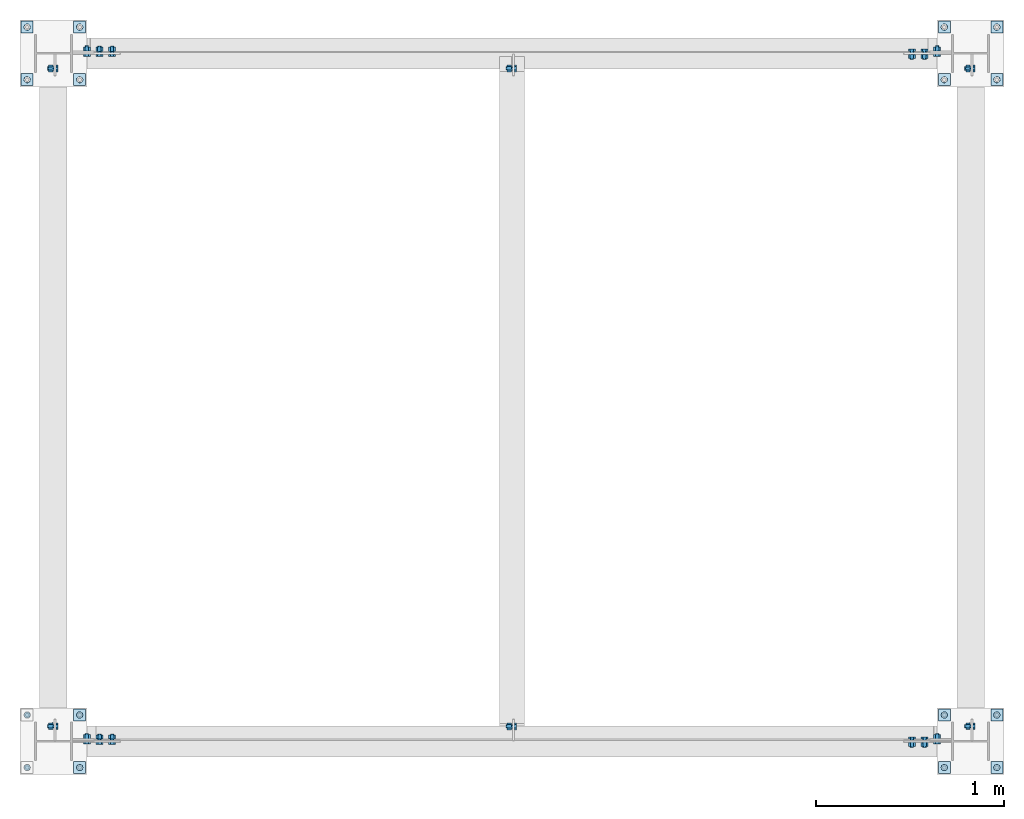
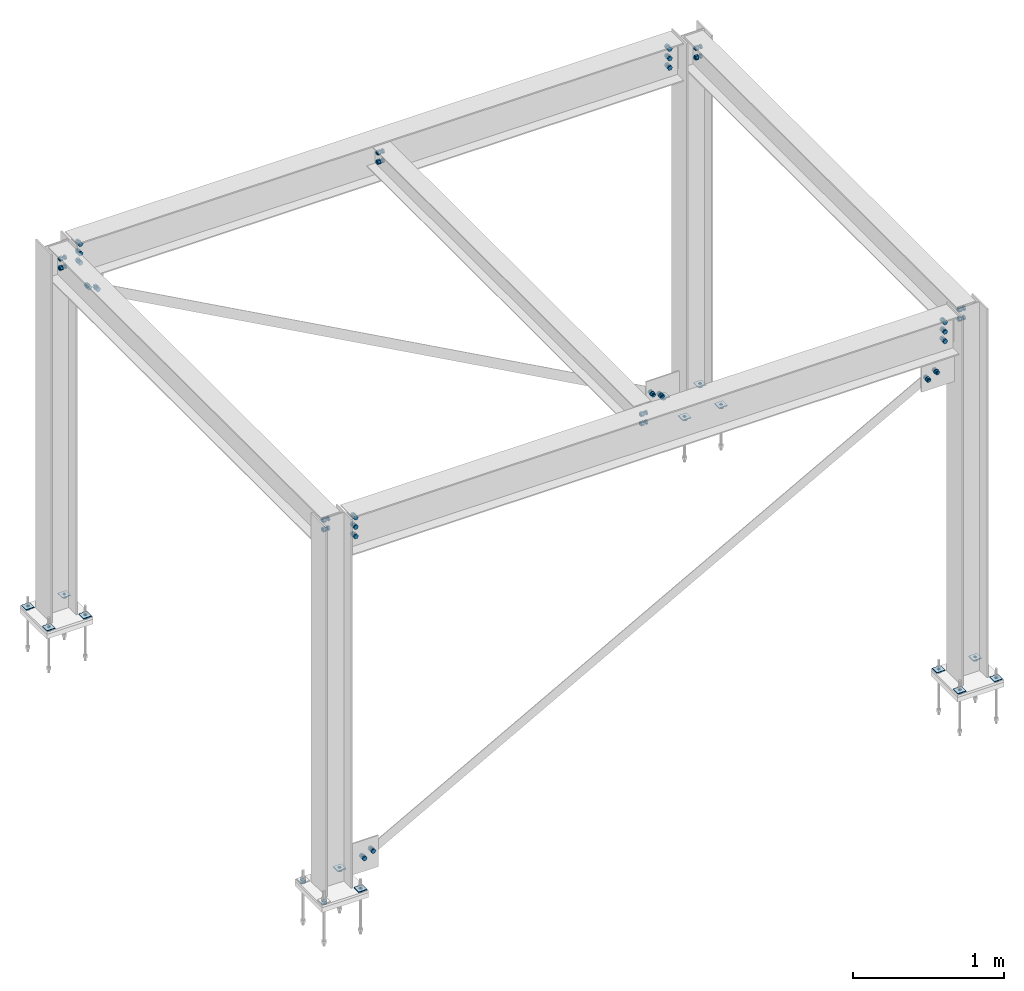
# One storey, part 5 of 5: 18 mechanical fasteners, 14 plates, 14 openings.
"""IFC4 building model written with IfcOpenShell, lengths in millimetres."""

from ifc_helpers import new_model, si_unit, direction, frame, origin_with_axes, place, context, subcontext, project, spatial, line, arc, indexed_curve, outline, extrude, source, transform, mapped, material, element, save


model = new_model("IFC4")

# Units and contexts
model_context = context("Model", 3, precision=0.2, world=origin_with_axes(), true_north=direction((0.0, 1.0)))
body_context = subcontext(model_context, "Body", "Model", "MODEL_VIEW")
ifc_project = project(units=[si_unit("LENGTHUNIT", "METRE", prefix="MILLI"), si_unit("AREAUNIT", "SQUARE_METRE"), si_unit("VOLUMEUNIT", "CUBIC_METRE"), si_unit("MASSUNIT", "GRAM", prefix="KILO"), si_unit("TIMEUNIT", "SECOND"), si_unit("PLANEANGLEUNIT", "RADIAN"), si_unit("SOLIDANGLEUNIT", "STERADIAN"), si_unit("THERMODYNAMICTEMPERATUREUNIT", "DEGREE_CELSIUS"), si_unit("LUMINOUSINTENSITYUNIT", "LUMEN")], contexts=[model_context])

# Site, building, storey
site_placement = place(None, origin_with_axes())
site = spatial("IfcSite", under=ifc_project, at=site_placement, Name="Unknown", CompositionType="ELEMENT")
building_placement = place(site_placement, origin_with_axes())
building = spatial("IfcBuilding", under=site, at=building_placement, Name="Unknown", CompositionType="ELEMENT")
storey_placement = place(building_placement, origin_with_axes())
storey = spatial("IfcBuildingStorey", under=building, at=storey_placement, Name="Unknown", CompositionType="ELEMENT", Elevation=0.0)

# Plate, voiding feature
ifc_material_1 = material(Name="A36", Category="STEEL")
plate_1_placement = place(storey_placement, frame((107.95, -171.45, 60.325), z_axis=(0.0, 0.0, 1.0), x_axis=(1.0, 0.0, 0.0)))
plate_1 = element("IfcPlate", 1, at=plate_1_placement, inside=storey, material=ifc_material_1, Name="PLATE WASHER", PredefinedType="NOTDEFINED", context=body_context, shape_type="SolidModel", body=[
    extrude(outline(indexed_curve([(0.0, 0.0), (63.5, 0.0), (63.5, 63.5), (0.0, 63.5)], segments=[line(1, 2, 3, 4, 1)])), frame((0.0, 0.0, 3.175), z_axis=(0.0, 0.0, 1.0), x_axis=(1.0, 0.0, 0.0)), (0.0, 0.0, -1.0), 6.35),
])
voiding_feature_1_placement = place(plate_1_placement, frame((31.75, 31.75, 23.175), z_axis=(1.0, 0.0, 0.0), x_axis=(0.0, 0.0, -1.0)))
element("IfcVoidingFeature", 2, at=voiding_feature_1_placement, cuts=plate_1, Name="BEAM", PredefinedType="HOLE", context=body_context, shape_type="SolidModel", body=[
    extrude(outline(indexed_curve([(10.3185, 0.0), (8.93608, 5.15925), (5.15925, 8.93608), (0.0, 10.3185), (-5.15925, 8.93608), (-8.93608, 5.15925), (-10.3185, 0.0), (-8.93608, -5.15925), (-5.15925, -8.93608), (0.0, -10.3185), (5.15925, -8.93608), (8.93608, -5.15925)], segments=[line(1, 2, 3, 4, 5, 6, 7, 8, 9, 10, 11, 12, 1)])), frame((0.0, 0.0, 0.0), z_axis=(-1.0, 0.0, 0.0), x_axis=(0.0, 0.0, 1.0)), (0.0, 0.0, -1.0), 46.35),
])

plate_2_placement = place(storey_placement, frame((107.95, 107.95, 60.325), z_axis=(0.0, 0.0, 1.0), x_axis=(1.0, 0.0, 0.0)))
plate_2 = element("IfcPlate", 3, at=plate_2_placement, inside=storey, material=ifc_material_1, Name="PLATE WASHER", PredefinedType="NOTDEFINED", context=body_context, shape_type="SolidModel", body=[
    extrude(outline(indexed_curve([(0.0, 0.0), (63.5, 0.0), (63.5, 63.5), (0.0, 63.5)], segments=[line(1, 2, 3, 4, 1)])), frame((0.0, 0.0, 3.175), z_axis=(0.0, 0.0, 1.0), x_axis=(1.0, 0.0, 0.0)), (0.0, 0.0, -1.0), 6.35),
])
voiding_feature_2_placement = place(plate_2_placement, frame((31.75, 31.75, 23.175), z_axis=(1.0, 0.0, 0.0), x_axis=(0.0, 0.0, -1.0)))
element("IfcVoidingFeature", 4, at=voiding_feature_2_placement, cuts=plate_2, Name="BEAM", PredefinedType="HOLE", context=body_context, shape_type="SolidModel", body=[
    extrude(outline(indexed_curve([(10.3185, 0.0), (8.93608, 5.15925), (5.15925, 8.93608), (0.0, 10.3185), (-5.15925, 8.93608), (-8.93608, 5.15925), (-10.3185, 0.0), (-8.93608, -5.15925), (-5.15925, -8.93608), (0.0, -10.3185), (5.15925, -8.93608), (8.93608, -5.15925)], segments=[line(1, 2, 3, 4, 5, 6, 7, 8, 9, 10, 11, 12, 1)])), frame((0.0, 0.0, 0.0), z_axis=(-1.0, 0.0, 0.0), x_axis=(0.0, 0.0, 1.0)), (0.0, 0.0, -1.0), 46.35),
])

plate_3_placement = place(storey_placement, frame((4705.35, -171.45, 60.325), z_axis=(0.0, 0.0, 1.0), x_axis=(1.0, 0.0, 0.0)))
plate_3 = element("IfcPlate", 5, at=plate_3_placement, inside=storey, material=ifc_material_1, Name="PLATE WASHER", PredefinedType="NOTDEFINED", context=body_context, shape_type="SolidModel", body=[
    extrude(outline(indexed_curve([(0.0, 0.0), (63.5, 0.0), (63.5, 63.5), (0.0, 63.5)], segments=[line(1, 2, 3, 4, 1)])), frame((0.0, 0.0, 3.175), z_axis=(0.0, 0.0, 1.0), x_axis=(1.0, 0.0, 0.0)), (0.0, 0.0, -1.0), 6.35),
])
voiding_feature_3_placement = place(plate_3_placement, frame((31.75, 31.75, 23.175), z_axis=(1.0, 0.0, 0.0), x_axis=(0.0, 0.0, -1.0)))
element("IfcVoidingFeature", 6, at=voiding_feature_3_placement, cuts=plate_3, Name="BEAM", PredefinedType="HOLE", context=body_context, shape_type="SolidModel", body=[
    extrude(outline(indexed_curve([(10.3185, 0.0), (8.93608, 5.15925), (5.15925, 8.93608), (0.0, 10.3185), (-5.15925, 8.93608), (-8.93608, 5.15925), (-10.3185, 0.0), (-8.93608, -5.15925), (-5.15925, -8.93608), (0.0, -10.3185), (5.15925, -8.93608), (8.93608, -5.15925)], segments=[line(1, 2, 3, 4, 5, 6, 7, 8, 9, 10, 11, 12, 1)])), frame((0.0, 0.0, 0.0), z_axis=(-1.0, 0.0, 0.0), x_axis=(0.0, 0.0, 1.0)), (0.0, 0.0, -1.0), 46.35),
])

plate_4_placement = place(storey_placement, frame((4705.35, 107.95, 60.325), z_axis=(0.0, 0.0, 1.0), x_axis=(1.0, 0.0, 0.0)))
plate_4 = element("IfcPlate", 7, at=plate_4_placement, inside=storey, material=ifc_material_1, Name="PLATE WASHER", PredefinedType="NOTDEFINED", context=body_context, shape_type="SolidModel", body=[
    extrude(outline(indexed_curve([(0.0, 0.0), (63.5, 0.0), (63.5, 63.5), (0.0, 63.5)], segments=[line(1, 2, 3, 4, 1)])), frame((0.0, 0.0, 3.175), z_axis=(0.0, 0.0, 1.0), x_axis=(1.0, 0.0, 0.0)), (0.0, 0.0, -1.0), 6.35),
])
voiding_feature_4_placement = place(plate_4_placement, frame((31.75, 31.75, 23.175), z_axis=(1.0, 0.0, 0.0), x_axis=(0.0, 0.0, -1.0)))
element("IfcVoidingFeature", 8, at=voiding_feature_4_placement, cuts=plate_4, Name="BEAM", PredefinedType="HOLE", context=body_context, shape_type="SolidModel", body=[
    extrude(outline(indexed_curve([(10.3185, 0.0), (8.93608, 5.15925), (5.15925, 8.93608), (0.0, 10.3185), (-5.15925, 8.93608), (-8.93608, 5.15925), (-10.3185, 0.0), (-8.93608, -5.15925), (-5.15925, -8.93608), (0.0, -10.3185), (5.15925, -8.93608), (8.93608, -5.15925)], segments=[line(1, 2, 3, 4, 5, 6, 7, 8, 9, 10, 11, 12, 1)])), frame((0.0, 0.0, 0.0), z_axis=(-1.0, 0.0, 0.0), x_axis=(0.0, 0.0, 1.0)), (0.0, 0.0, -1.0), 46.35),
])

plate_5_placement = place(storey_placement, frame((4984.75, -171.45, 60.325), z_axis=(0.0, 0.0, 1.0), x_axis=(1.0, 0.0, 0.0)))
plate_5 = element("IfcPlate", 9, at=plate_5_placement, inside=storey, material=ifc_material_1, Name="PLATE WASHER", PredefinedType="NOTDEFINED", context=body_context, shape_type="SolidModel", body=[
    extrude(outline(indexed_curve([(0.0, 0.0), (63.5, 0.0), (63.5, 63.5), (0.0, 63.5)], segments=[line(1, 2, 3, 4, 1)])), frame((0.0, 0.0, 3.175), z_axis=(0.0, 0.0, 1.0), x_axis=(1.0, 0.0, 0.0)), (0.0, 0.0, -1.0), 6.35),
])
voiding_feature_5_placement = place(plate_5_placement, frame((31.75, 31.75, 23.175), z_axis=(1.0, 0.0, 0.0), x_axis=(0.0, 0.0, -1.0)))
element("IfcVoidingFeature", 10, at=voiding_feature_5_placement, cuts=plate_5, Name="BEAM", PredefinedType="HOLE", context=body_context, shape_type="SolidModel", body=[
    extrude(outline(indexed_curve([(10.3185, 0.0), (8.93608, 5.15925), (5.15925, 8.93608), (0.0, 10.3185), (-5.15925, 8.93608), (-8.93608, 5.15925), (-10.3185, 0.0), (-8.93608, -5.15925), (-5.15925, -8.93608), (0.0, -10.3185), (5.15925, -8.93608), (8.93608, -5.15925)], segments=[line(1, 2, 3, 4, 5, 6, 7, 8, 9, 10, 11, 12, 1)])), frame((0.0, 0.0, 0.0), z_axis=(-1.0, 0.0, 0.0), x_axis=(0.0, 0.0, 1.0)), (0.0, 0.0, -1.0), 46.35),
])

plate_6_placement = place(storey_placement, frame((4984.75, 107.95, 60.325), z_axis=(0.0, 0.0, 1.0), x_axis=(1.0, 0.0, 0.0)))
plate_6 = element("IfcPlate", 11, at=plate_6_placement, inside=storey, material=ifc_material_1, Name="PLATE WASHER", PredefinedType="NOTDEFINED", context=body_context, shape_type="SolidModel", body=[
    extrude(outline(indexed_curve([(0.0, 0.0), (63.5, 0.0), (63.5, 63.5), (0.0, 63.5)], segments=[line(1, 2, 3, 4, 1)])), frame((0.0, 0.0, 3.175), z_axis=(0.0, 0.0, 1.0), x_axis=(1.0, 0.0, 0.0)), (0.0, 0.0, -1.0), 6.35),
])
voiding_feature_6_placement = place(plate_6_placement, frame((31.75, 31.75, 23.175), z_axis=(1.0, 0.0, 0.0), x_axis=(0.0, 0.0, -1.0)))
element("IfcVoidingFeature", 12, at=voiding_feature_6_placement, cuts=plate_6, Name="BEAM", PredefinedType="HOLE", context=body_context, shape_type="SolidModel", body=[
    extrude(outline(indexed_curve([(10.3185, 0.0), (8.93608, 5.15925), (5.15925, 8.93608), (0.0, 10.3185), (-5.15925, 8.93608), (-8.93608, 5.15925), (-10.3185, 0.0), (-8.93608, -5.15925), (-5.15925, -8.93608), (0.0, -10.3185), (5.15925, -8.93608), (8.93608, -5.15925)], segments=[line(1, 2, 3, 4, 5, 6, 7, 8, 9, 10, 11, 12, 1)])), frame((0.0, 0.0, 0.0), z_axis=(-1.0, 0.0, 0.0), x_axis=(0.0, 0.0, 1.0)), (0.0, 0.0, -1.0), 46.35),
])

plate_7_placement = place(storey_placement, frame((-171.45, 3486.15, 60.325), z_axis=(0.0, 0.0, 1.0), x_axis=(1.0, 0.0, 0.0)))
plate_7 = element("IfcPlate", 13, at=plate_7_placement, inside=storey, material=ifc_material_1, Name="PLATE WASHER", PredefinedType="NOTDEFINED", context=body_context, shape_type="SolidModel", body=[
    extrude(outline(indexed_curve([(0.0, 0.0), (63.5, 0.0), (63.5, 63.5), (0.0, 63.5)], segments=[line(1, 2, 3, 4, 1)])), frame((0.0, 0.0, 3.175), z_axis=(0.0, 0.0, 1.0), x_axis=(1.0, 0.0, 0.0)), (0.0, 0.0, -1.0), 6.35),
])
voiding_feature_7_placement = place(plate_7_placement, frame((31.75, 31.75, 23.175), z_axis=(1.0, 0.0, 0.0), x_axis=(0.0, 0.0, -1.0)))
element("IfcVoidingFeature", 14, at=voiding_feature_7_placement, cuts=plate_7, Name="BEAM", PredefinedType="HOLE", context=body_context, shape_type="SolidModel", body=[
    extrude(outline(indexed_curve([(10.3185, 0.0), (8.93608, 5.15925), (5.15925, 8.93608), (0.0, 10.3185), (-5.15925, 8.93608), (-8.93608, 5.15925), (-10.3185, 0.0), (-8.93608, -5.15925), (-5.15925, -8.93608), (0.0, -10.3185), (5.15925, -8.93608), (8.93608, -5.15925)], segments=[line(1, 2, 3, 4, 5, 6, 7, 8, 9, 10, 11, 12, 1)])), frame((0.0, 0.0, 0.0), z_axis=(-1.0, 0.0, 0.0), x_axis=(0.0, 0.0, 1.0)), (0.0, 0.0, -1.0), 46.35),
])

plate_8_placement = place(storey_placement, frame((-171.45, 3765.55, 60.325), z_axis=(0.0, 0.0, 1.0), x_axis=(1.0, 0.0, 0.0)))
plate_8 = element("IfcPlate", 15, at=plate_8_placement, inside=storey, material=ifc_material_1, Name="PLATE WASHER", PredefinedType="NOTDEFINED", context=body_context, shape_type="SolidModel", body=[
    extrude(outline(indexed_curve([(0.0, 0.0), (63.5, 0.0), (63.5, 63.5), (0.0, 63.5)], segments=[line(1, 2, 3, 4, 1)])), frame((0.0, 0.0, 3.175), z_axis=(0.0, 0.0, 1.0), x_axis=(1.0, 0.0, 0.0)), (0.0, 0.0, -1.0), 6.35),
])
voiding_feature_8_placement = place(plate_8_placement, frame((31.75, 31.75, 23.175), z_axis=(1.0, 0.0, 0.0), x_axis=(0.0, 0.0, -1.0)))
element("IfcVoidingFeature", 16, at=voiding_feature_8_placement, cuts=plate_8, Name="BEAM", PredefinedType="HOLE", context=body_context, shape_type="SolidModel", body=[
    extrude(outline(indexed_curve([(10.3185, 0.0), (8.93608, 5.15925), (5.15925, 8.93608), (0.0, 10.3185), (-5.15925, 8.93608), (-8.93608, 5.15925), (-10.3185, 0.0), (-8.93608, -5.15925), (-5.15925, -8.93608), (0.0, -10.3185), (5.15925, -8.93608), (8.93608, -5.15925)], segments=[line(1, 2, 3, 4, 5, 6, 7, 8, 9, 10, 11, 12, 1)])), frame((0.0, 0.0, 0.0), z_axis=(-1.0, 0.0, 0.0), x_axis=(0.0, 0.0, 1.0)), (0.0, 0.0, -1.0), 46.35),
])

plate_9_placement = place(storey_placement, frame((107.95, 3486.15, 60.325), z_axis=(0.0, 0.0, 1.0), x_axis=(1.0, 0.0, 0.0)))
plate_9 = element("IfcPlate", 17, at=plate_9_placement, inside=storey, material=ifc_material_1, Name="PLATE WASHER", PredefinedType="NOTDEFINED", context=body_context, shape_type="SolidModel", body=[
    extrude(outline(indexed_curve([(0.0, 0.0), (63.5, 0.0), (63.5, 63.5), (0.0, 63.5)], segments=[line(1, 2, 3, 4, 1)])), frame((0.0, 0.0, 3.175), z_axis=(0.0, 0.0, 1.0), x_axis=(1.0, 0.0, 0.0)), (0.0, 0.0, -1.0), 6.35),
])
voiding_feature_9_placement = place(plate_9_placement, frame((31.75, 31.75, 23.175), z_axis=(1.0, 0.0, 0.0), x_axis=(0.0, 0.0, -1.0)))
element("IfcVoidingFeature", 18, at=voiding_feature_9_placement, cuts=plate_9, Name="BEAM", PredefinedType="HOLE", context=body_context, shape_type="SolidModel", body=[
    extrude(outline(indexed_curve([(10.3185, 0.0), (8.93608, 5.15925), (5.15925, 8.93608), (0.0, 10.3185), (-5.15925, 8.93608), (-8.93608, 5.15925), (-10.3185, 0.0), (-8.93608, -5.15925), (-5.15925, -8.93608), (0.0, -10.3185), (5.15925, -8.93608), (8.93608, -5.15925)], segments=[line(1, 2, 3, 4, 5, 6, 7, 8, 9, 10, 11, 12, 1)])), frame((0.0, 0.0, 0.0), z_axis=(-1.0, 0.0, 0.0), x_axis=(0.0, 0.0, 1.0)), (0.0, 0.0, -1.0), 46.35),
])

plate_10_placement = place(storey_placement, frame((107.95, 3765.55, 60.325), z_axis=(0.0, 0.0, 1.0), x_axis=(1.0, 0.0, 0.0)))
plate_10 = element("IfcPlate", 19, at=plate_10_placement, inside=storey, material=ifc_material_1, Name="PLATE WASHER", PredefinedType="NOTDEFINED", context=body_context, shape_type="SolidModel", body=[
    extrude(outline(indexed_curve([(0.0, 0.0), (63.5, 0.0), (63.5, 63.5), (0.0, 63.5)], segments=[line(1, 2, 3, 4, 1)])), frame((0.0, 0.0, 3.175), z_axis=(0.0, 0.0, 1.0), x_axis=(1.0, 0.0, 0.0)), (0.0, 0.0, -1.0), 6.35),
])
voiding_feature_10_placement = place(plate_10_placement, frame((31.75, 31.75, 23.175), z_axis=(1.0, 0.0, 0.0), x_axis=(0.0, 0.0, -1.0)))
element("IfcVoidingFeature", 20, at=voiding_feature_10_placement, cuts=plate_10, Name="BEAM", PredefinedType="HOLE", context=body_context, shape_type="SolidModel", body=[
    extrude(outline(indexed_curve([(10.3185, 0.0), (8.93608, 5.15925), (5.15925, 8.93608), (0.0, 10.3185), (-5.15925, 8.93608), (-8.93608, 5.15925), (-10.3185, 0.0), (-8.93608, -5.15925), (-5.15925, -8.93608), (0.0, -10.3185), (5.15925, -8.93608), (8.93608, -5.15925)], segments=[line(1, 2, 3, 4, 5, 6, 7, 8, 9, 10, 11, 12, 1)])), frame((0.0, 0.0, 0.0), z_axis=(-1.0, 0.0, 0.0), x_axis=(0.0, 0.0, 1.0)), (0.0, 0.0, -1.0), 46.35),
])

plate_11_placement = place(storey_placement, frame((4705.35, 3486.15, 60.325), z_axis=(0.0, 0.0, 1.0), x_axis=(1.0, 0.0, 0.0)))
plate_11 = element("IfcPlate", 21, at=plate_11_placement, inside=storey, material=ifc_material_1, Name="PLATE WASHER", PredefinedType="NOTDEFINED", context=body_context, shape_type="SolidModel", body=[
    extrude(outline(indexed_curve([(0.0, 0.0), (63.5, 0.0), (63.5, 63.5), (0.0, 63.5)], segments=[line(1, 2, 3, 4, 1)])), frame((0.0, 0.0, 3.175), z_axis=(0.0, 0.0, 1.0), x_axis=(1.0, 0.0, 0.0)), (0.0, 0.0, -1.0), 6.35),
])
voiding_feature_11_placement = place(plate_11_placement, frame((31.75, 31.75, 23.175), z_axis=(1.0, 0.0, 0.0), x_axis=(0.0, 0.0, -1.0)))
element("IfcVoidingFeature", 22, at=voiding_feature_11_placement, cuts=plate_11, Name="BEAM", PredefinedType="HOLE", context=body_context, shape_type="SolidModel", body=[
    extrude(outline(indexed_curve([(10.3185, 0.0), (8.93608, 5.15925), (5.15925, 8.93608), (0.0, 10.3185), (-5.15925, 8.93608), (-8.93608, 5.15925), (-10.3185, 0.0), (-8.93608, -5.15925), (-5.15925, -8.93608), (0.0, -10.3185), (5.15925, -8.93608), (8.93608, -5.15925)], segments=[line(1, 2, 3, 4, 5, 6, 7, 8, 9, 10, 11, 12, 1)])), frame((0.0, 0.0, 0.0), z_axis=(-1.0, 0.0, 0.0), x_axis=(0.0, 0.0, 1.0)), (0.0, 0.0, -1.0), 46.35),
])

plate_12_placement = place(storey_placement, frame((4705.35, 3765.55, 60.325), z_axis=(0.0, 0.0, 1.0), x_axis=(1.0, 0.0, 0.0)))
plate_12 = element("IfcPlate", 23, at=plate_12_placement, inside=storey, material=ifc_material_1, Name="PLATE WASHER", PredefinedType="NOTDEFINED", context=body_context, shape_type="SolidModel", body=[
    extrude(outline(indexed_curve([(0.0, 0.0), (63.5, 0.0), (63.5, 63.5), (0.0, 63.5)], segments=[line(1, 2, 3, 4, 1)])), frame((0.0, 0.0, 3.175), z_axis=(0.0, 0.0, 1.0), x_axis=(1.0, 0.0, 0.0)), (0.0, 0.0, -1.0), 6.35),
])
voiding_feature_12_placement = place(plate_12_placement, frame((31.75, 31.75, 23.175), z_axis=(1.0, 0.0, 0.0), x_axis=(0.0, 0.0, -1.0)))
element("IfcVoidingFeature", 24, at=voiding_feature_12_placement, cuts=plate_12, Name="BEAM", PredefinedType="HOLE", context=body_context, shape_type="SolidModel", body=[
    extrude(outline(indexed_curve([(10.3185, 0.0), (8.93608, 5.15925), (5.15925, 8.93608), (0.0, 10.3185), (-5.15925, 8.93608), (-8.93608, 5.15925), (-10.3185, 0.0), (-8.93608, -5.15925), (-5.15925, -8.93608), (0.0, -10.3185), (5.15925, -8.93608), (8.93608, -5.15925)], segments=[line(1, 2, 3, 4, 5, 6, 7, 8, 9, 10, 11, 12, 1)])), frame((0.0, 0.0, 0.0), z_axis=(-1.0, 0.0, 0.0), x_axis=(0.0, 0.0, 1.0)), (0.0, 0.0, -1.0), 46.35),
])

plate_13_placement = place(storey_placement, frame((4984.75, 3486.15, 60.325), z_axis=(0.0, 0.0, 1.0), x_axis=(1.0, 0.0, 0.0)))
plate_13 = element("IfcPlate", 25, at=plate_13_placement, inside=storey, material=ifc_material_1, Name="PLATE WASHER", PredefinedType="NOTDEFINED", context=body_context, shape_type="SolidModel", body=[
    extrude(outline(indexed_curve([(0.0, 0.0), (63.5, 0.0), (63.5, 63.5), (0.0, 63.5)], segments=[line(1, 2, 3, 4, 1)])), frame((0.0, 0.0, 3.175), z_axis=(0.0, 0.0, 1.0), x_axis=(1.0, 0.0, 0.0)), (0.0, 0.0, -1.0), 6.35),
])
voiding_feature_13_placement = place(plate_13_placement, frame((31.75, 31.75, 23.175), z_axis=(1.0, 0.0, 0.0), x_axis=(0.0, 0.0, -1.0)))
element("IfcVoidingFeature", 26, at=voiding_feature_13_placement, cuts=plate_13, Name="BEAM", PredefinedType="HOLE", context=body_context, shape_type="SolidModel", body=[
    extrude(outline(indexed_curve([(10.3185, 0.0), (8.93608, 5.15925), (5.15925, 8.93608), (0.0, 10.3185), (-5.15925, 8.93608), (-8.93608, 5.15925), (-10.3185, 0.0), (-8.93608, -5.15925), (-5.15925, -8.93608), (0.0, -10.3185), (5.15925, -8.93608), (8.93608, -5.15925)], segments=[line(1, 2, 3, 4, 5, 6, 7, 8, 9, 10, 11, 12, 1)])), frame((0.0, 0.0, 0.0), z_axis=(-1.0, 0.0, 0.0), x_axis=(0.0, 0.0, 1.0)), (0.0, 0.0, -1.0), 46.35),
])

plate_14_placement = place(storey_placement, frame((4984.75, 3765.55, 60.325), z_axis=(0.0, 0.0, 1.0), x_axis=(1.0, 0.0, 0.0)))
plate_14 = element("IfcPlate", 27, at=plate_14_placement, inside=storey, material=ifc_material_1, Name="PLATE WASHER", PredefinedType="NOTDEFINED", context=body_context, shape_type="SolidModel", body=[
    extrude(outline(indexed_curve([(0.0, 0.0), (63.5, 0.0), (63.5, 63.5), (0.0, 63.5)], segments=[line(1, 2, 3, 4, 1)])), frame((0.0, 0.0, 3.175), z_axis=(0.0, 0.0, 1.0), x_axis=(1.0, 0.0, 0.0)), (0.0, 0.0, -1.0), 6.35),
])
voiding_feature_14_placement = place(plate_14_placement, frame((31.75, 31.75, 23.175), z_axis=(1.0, 0.0, 0.0), x_axis=(0.0, 0.0, -1.0)))
element("IfcVoidingFeature", 28, at=voiding_feature_14_placement, cuts=plate_14, Name="BEAM", PredefinedType="HOLE", context=body_context, shape_type="SolidModel", body=[
    extrude(outline(indexed_curve([(10.3185, 0.0), (8.93608, 5.15925), (5.15925, 8.93608), (0.0, 10.3185), (-5.15925, 8.93608), (-8.93608, 5.15925), (-10.3185, 0.0), (-8.93608, -5.15925), (-5.15925, -8.93608), (0.0, -10.3185), (5.15925, -8.93608), (8.93608, -5.15925)], segments=[line(1, 2, 3, 4, 5, 6, 7, 8, 9, 10, 11, 12, 1)])), frame((0.0, 0.0, 0.0), z_axis=(-1.0, 0.0, 0.0), x_axis=(0.0, 0.0, 1.0)), (0.0, 0.0, -1.0), 46.35),
])

# Mechanical fasteners
ifc_material_2 = material(Name="A325N", Category="STEEL")
shared_shape_1 = source(origin_with_axes(), body_context, "Body", "SweptSolid", [
    extrude(outline(indexed_curve([(9.525, 0.0), (0.0, 9.525), (-9.525, 0.0), (0.0, -9.525)], segments=[arc(1, 2, 3), arc(3, 4, 1)])), frame((0.0, 0.0, 4.7625), z_axis=(0.0, 0.0, -1.0), x_axis=(0.0, 1.0, 0.0)), (0.0, 0.0, 1.0), 44.4500007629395),
    extrude(outline(indexed_curve([(10.31875, 0.0), (0.0, 10.31875), (-10.31875, 0.0), (0.0, -10.31875)], segments=[arc(1, 2, 3), arc(3, 4, 1)])), frame((0.0, 0.0, 4.7625), z_axis=(0.0, 0.0, -1.0), x_axis=(0.0, 1.0, 0.0)), (0.0, 0.0, 1.0), 9.52500000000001),
    extrude(outline(indexed_curve([(10.31875, 0.0), (0.0, 10.31875), (-10.31875, 0.0), (0.0, -10.31875)], segments=[arc(1, 2, 3), arc(3, 4, 1)])), frame((0.0, 0.0, -4.7625), z_axis=(0.0, 0.0, -1.0), x_axis=(0.0, 1.0, 0.0)), (0.0, 0.0, 1.0), 6.34999999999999),
    extrude(outline(indexed_curve([(18.33087, 0.0), (9.16544, 15.875), (-9.16544, 15.875), (-18.33087, 0.0), (-9.16544, -15.875), (9.16544, -15.875)], segments=[line(1, 2, 3, 4, 5, 6, 1)])), frame((0.0, 0.0, 16.66875), z_axis=(0.0, 0.0, -1.0), x_axis=(0.0, 1.0, 0.0)), (0.0, 0.0, 1.0), 11.90625),
    extrude(outline(indexed_curve([(18.65315, 0.0), (0.0, 18.65315), (-18.65315, 0.0), (0.0, -18.65315)], segments=[arc(1, 2, 3), arc(3, 4, 1)])), frame((0.0, 0.0, -11.1125), z_axis=(0.0, 0.0, -1.0), x_axis=(0.0, 1.0, 0.0)), (0.0, 0.0, 1.0), 3.17499995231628),
    extrude(outline(indexed_curve([(18.33087, 0.0), (9.16544, 15.875), (-9.16544, 15.875), (-18.33087, 0.0), (-9.16544, -15.875), (9.16544, -15.875)], segments=[line(1, 2, 3, 4, 5, 6, 1)])), frame((0.0, 0.0, -14.2875), z_axis=(0.0, 0.0, -1.0), x_axis=(0.0, 1.0, 0.0)), (0.0, 0.0, 1.0), 19.0499992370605),
])
for number, where, z_axis, x_axis in (
    (29, (244.86856, 0.0, 191.70017), (0.0, -1.0, 0.0), (0.8764085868, 0.0, 0.4815682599)),
    (30, (244.86856, 3657.6, 2602.29983), (0.0, -1.0, 0.0), (0.8764085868, 0.0, -0.4815682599)),
):
    element("IfcMechanicalFastener", number, at=place(storey_placement, frame(where, z_axis=z_axis, x_axis=x_axis)), inside=storey, material=ifc_material_2, Name="BOLT 3/4\"DIA A325 1\"3/4", context=body_context, shape_type="MappedRepresentation", body=[
        mapped(shared_shape_1, transform((0.0, 0.0, 0.0))),
        mapped(shared_shape_1, transform((76.2, 0.0, 0.0))),
    ])
shared_shape_2 = source(origin_with_axes(), body_context, "Body", "SweptSolid", [
    extrude(outline(indexed_curve([(9.525, 0.0), (0.0, 9.525), (-9.525, 0.0), (0.0, -9.525)], segments=[arc(1, 2, 3), arc(3, 4, 1)])), frame((0.0, 0.0, 12.7), z_axis=(0.0, 0.0, -1.0), x_axis=(0.0, 1.0, 0.0)), (0.0, 0.0, 1.0), 44.4500007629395),
    extrude(outline(indexed_curve([(10.31875, 0.0), (0.0, 10.31875), (-10.31875, 0.0), (0.0, -10.31875)], segments=[arc(1, 2, 3), arc(3, 4, 1)])), frame((0.0, 0.0, 12.7), z_axis=(0.0, 0.0, -1.0), x_axis=(0.0, 1.0, 0.0)), (0.0, 0.0, 1.0), 9.52500000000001),
    extrude(outline(indexed_curve([(10.31875, 0.0), (0.0, 10.31875), (-10.31875, 0.0), (0.0, -10.31875)], segments=[arc(1, 2, 3), arc(3, 4, 1)])), frame((0.0, 0.0, 3.175), z_axis=(0.0, 0.0, -1.0), x_axis=(0.0, 1.0, 0.0)), (0.0, 0.0, 1.0), 6.34999999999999),
    extrude(outline(indexed_curve([(18.33087, 0.0), (9.16544, 15.875), (-9.16544, 15.875), (-18.33087, 0.0), (-9.16544, -15.875), (9.16544, -15.875)], segments=[line(1, 2, 3, 4, 5, 6, 1)])), frame((0.0, 0.0, 24.60625), z_axis=(0.0, 0.0, -1.0), x_axis=(0.0, 1.0, 0.0)), (0.0, 0.0, 1.0), 11.90625),
    extrude(outline(indexed_curve([(18.65315, 0.0), (0.0, 18.65315), (-18.65315, 0.0), (0.0, -18.65315)], segments=[arc(1, 2, 3), arc(3, 4, 1)])), frame((0.0, 0.0, -3.175), z_axis=(0.0, 0.0, -1.0), x_axis=(0.0, 1.0, 0.0)), (0.0, 0.0, 1.0), 3.17499995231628),
    extrude(outline(indexed_curve([(18.33087, 0.0), (9.16544, 15.875), (-9.16544, 15.875), (-18.33087, 0.0), (-9.16544, -15.875), (9.16544, -15.875)], segments=[line(1, 2, 3, 4, 5, 6, 1)])), frame((0.0, 0.0, -6.35), z_axis=(0.0, 0.0, -1.0), x_axis=(0.0, 1.0, 0.0)), (0.0, 0.0, 1.0), 19.0499992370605),
])
for number, where, z_axis, x_axis in (
    (31, (0.0, 80.16875, 2971.8), (1.0, 0.0, 0.0), (0.0, 0.0, -1.0)),
    (32, (4876.8, 80.16875, 2971.8), (1.0, 0.0, 0.0), (0.0, 0.0, -1.0)),
    (33, (0.0, 3577.43125, 2971.8), (1.0, 0.0, 0.0), (0.0, 0.0, -1.0)),
    (34, (4876.8, 3577.43125, 2971.8), (1.0, 0.0, 0.0), (0.0, 0.0, -1.0)),
    (35, (2438.4, 79.375, 2978.15), (1.0, 0.0, 0.0), (0.0, 0.0, -1.0)),
    (36, (2438.4, 3578.225, 2978.15), (1.0, 0.0, 0.0), (0.0, 0.0, -1.0)),
):
    element("IfcMechanicalFastener", number, at=place(storey_placement, frame(where, z_axis=z_axis, x_axis=x_axis)), inside=storey, material=ifc_material_2, Name="BOLT 3/4\"DIA A325 1\"3/4", context=body_context, shape_type="MappedRepresentation", body=[
        mapped(shared_shape_2, transform((0.0, 0.0, 0.0))),
        mapped(shared_shape_2, transform((76.2, 0.0, 0.0))),
    ])
shared_shape_3 = source(origin_with_axes(), body_context, "Body", "SweptSolid", [
    extrude(outline(indexed_curve([(9.525, 0.0), (0.0, 9.525), (-9.525, 0.0), (0.0, -9.525)], segments=[arc(1, 2, 3), arc(3, 4, 1)])), frame((0.0, 0.0, 3.175), z_axis=(0.0, 0.0, -1.0), x_axis=(0.0, 1.0, 0.0)), (0.0, 0.0, 1.0), 44.4500007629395),
    extrude(outline(indexed_curve([(10.31875, 0.0), (0.0, 10.31875), (-10.31875, 0.0), (0.0, -10.31875)], segments=[arc(1, 2, 3), arc(3, 4, 1)])), frame((0.0, 0.0, 3.175), z_axis=(0.0, 0.0, -1.0), x_axis=(0.0, 1.0, 0.0)), (0.0, 0.0, 1.0), 6.34999999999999),
    extrude(outline(indexed_curve([(10.31875, 0.0), (0.0, 10.31875), (-10.31875, 0.0), (0.0, -10.31875)], segments=[arc(1, 2, 3), arc(3, 4, 1)])), frame((0.0, 0.0, -3.175), z_axis=(0.0, 0.0, -1.0), x_axis=(0.0, 1.0, 0.0)), (0.0, 0.0, 1.0), 9.52500000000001),
    extrude(outline(indexed_curve([(18.33087, 0.0), (9.16544, 15.875), (-9.16544, 15.875), (-18.33087, 0.0), (-9.16544, -15.875), (9.16544, -15.875)], segments=[line(1, 2, 3, 4, 5, 6, 1)])), frame((0.0, 0.0, 15.08125), z_axis=(0.0, 0.0, -1.0), x_axis=(0.0, 1.0, 0.0)), (0.0, 0.0, 1.0), 11.90625),
    extrude(outline(indexed_curve([(18.65315, 0.0), (0.0, 18.65315), (-18.65315, 0.0), (0.0, -18.65315)], segments=[arc(1, 2, 3), arc(3, 4, 1)])), frame((0.0, 0.0, -12.7), z_axis=(0.0, 0.0, -1.0), x_axis=(0.0, 1.0, 0.0)), (0.0, 0.0, 1.0), 3.17499995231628),
    extrude(outline(indexed_curve([(18.33087, 0.0), (9.16544, 15.875), (-9.16544, 15.875), (-18.33087, 0.0), (-9.16544, -15.875), (9.16544, -15.875)], segments=[line(1, 2, 3, 4, 5, 6, 1)])), frame((0.0, 0.0, -15.875), z_axis=(0.0, 0.0, -1.0), x_axis=(0.0, 1.0, 0.0)), (0.0, 0.0, 1.0), 19.0499992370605),
])
for number, where, z_axis, x_axis in (
    (37, (177.8, 0.0, 2978.15), (0.0, -1.0, 0.0), (0.0, 0.0, -1.0)),
    (38, (4699.0, 0.0, 2978.15), (0.0, -1.0, 0.0), (0.0, 0.0, -1.0)),
    (39, (177.8, 3657.6, 2978.15), (0.0, -1.0, 0.0), (0.0, 0.0, -1.0)),
    (40, (4699.0, 3657.6, 2978.15), (0.0, -1.0, 0.0), (0.0, 0.0, -1.0)),
):
    element("IfcMechanicalFastener", number, at=place(storey_placement, frame(where, z_axis=z_axis, x_axis=x_axis)), inside=storey, material=ifc_material_2, Name="BOLT 3/4\"DIA A325 1\"3/4", context=body_context, shape_type="MappedRepresentation", body=[
        mapped(shared_shape_3, transform((0.0, 0.0, 0.0))),
        mapped(shared_shape_3, transform((76.2, 0.0, 0.0))),
        mapped(shared_shape_3, transform((152.4, 0.0, 0.0))),
    ])
ifc_material_3 = material(Name="A307", Category="STEEL")
shared_shape_4 = source(origin_with_axes(), body_context, "Body", "SweptSolid", [
    extrude(outline(indexed_curve([(16.669, 0.0), (0.0, 16.669), (-16.669, 0.0), (0.0, -16.669)], segments=[arc(1, 2, 3), arc(3, 4, 1)])), frame((0.0, 0.0, 0.0), z_axis=(0.0, 0.0, -1.0), x_axis=(0.0, 1.0, 0.0)), (0.0, 0.0, 1.0), 19.05),
])
for number, where, z_axis, x_axis, name in (
    (41, (-139.7, 0.0, 57.15), (0.0, 0.0, 1.0), (1.0, 0.0, 0.0), "A307"),
    (42, (4737.1, 0.0, 57.15), (0.0, 0.0, 1.0), (1.0, 0.0, 0.0), "A307"),
    (43, (-139.7, 3657.6, 57.15), (0.0, 0.0, 1.0), (1.0, 0.0, 0.0), "A307"),
    (44, (4737.1, 3657.6, 57.15), (0.0, 0.0, 1.0), (1.0, 0.0, 0.0), "A307"),
):
    element("IfcMechanicalFastener", number, at=place(storey_placement, frame(where, z_axis=z_axis, x_axis=x_axis)), inside=storey, material=ifc_material_3, Name=name, context=body_context, shape_type="MappedRepresentation", body=[
        mapped(shared_shape_4, transform((0.0, -139.7, 0.0))),
        mapped(shared_shape_4, transform((279.4, -139.7, 0.0))),
        mapped(shared_shape_4, transform((0.0, 139.7, 0.0))),
        mapped(shared_shape_4, transform((279.4, 139.7, 0.0))),
    ])
shared_shape_5 = source(origin_with_axes(), body_context, "Body", "SweptSolid", [
    extrude(outline(indexed_curve([(9.525, 0.0), (0.0, 9.525), (-9.525, 0.0), (0.0, -9.525)], segments=[arc(1, 2, 3), arc(3, 4, 1)])), frame((0.0, 0.0, 11.1125), z_axis=(0.0, 0.0, -1.0), x_axis=(0.0, 1.0, 0.0)), (0.0, 0.0, 1.0), 44.4500007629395),
    extrude(outline(indexed_curve([(10.31875, 0.0), (0.0, 10.31875), (-10.31875, 0.0), (0.0, -10.31875)], segments=[arc(1, 2, 3), arc(3, 4, 1)])), frame((0.0, 0.0, 11.1125), z_axis=(0.0, 0.0, -1.0), x_axis=(0.0, 1.0, 0.0)), (0.0, 0.0, 1.0), 6.35),
    extrude(outline(indexed_curve([(10.31875, 0.0), (0.0, 10.31875), (-10.31875, 0.0), (0.0, -10.31875)], segments=[arc(1, 2, 3), arc(3, 4, 1)])), frame((0.0, 0.0, 4.7625), z_axis=(0.0, 0.0, -1.0), x_axis=(0.0, 1.0, 0.0)), (0.0, 0.0, 1.0), 9.52500000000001),
    extrude(outline(indexed_curve([(18.33087, 0.0), (9.16544, 15.875), (-9.16544, 15.875), (-18.33087, 0.0), (-9.16544, -15.875), (9.16544, -15.875)], segments=[line(1, 2, 3, 4, 5, 6, 1)])), frame((0.0, 0.0, 23.01875), z_axis=(0.0, 0.0, -1.0), x_axis=(0.0, 1.0, 0.0)), (0.0, 0.0, 1.0), 11.90625),
    extrude(outline(indexed_curve([(18.65315, 0.0), (0.0, 18.65315), (-18.65315, 0.0), (0.0, -18.65315)], segments=[arc(1, 2, 3), arc(3, 4, 1)])), frame((0.0, 0.0, -4.7625), z_axis=(0.0, 0.0, -1.0), x_axis=(0.0, 1.0, 0.0)), (0.0, 0.0, 1.0), 3.17499995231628),
    extrude(outline(indexed_curve([(18.33087, 0.0), (9.16544, 15.875), (-9.16544, 15.875), (-18.33087, 0.0), (-9.16544, -15.875), (9.16544, -15.875)], segments=[line(1, 2, 3, 4, 5, 6, 1)])), frame((0.0, 0.0, -7.9375), z_axis=(0.0, 0.0, -1.0), x_axis=(0.0, 1.0, 0.0)), (0.0, 0.0, 1.0), 19.0499992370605),
])
for number, where, z_axis, x_axis in (
    (45, (4631.93144, 0.0, 2602.29983), (0.0, 1.0, 0.0), (-0.8764085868, 0.0, -0.4815682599)),
    (46, (4631.93144, 3657.6, 191.70017), (0.0, 1.0, 0.0), (-0.8764085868, 0.0, 0.4815682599)),
):
    element("IfcMechanicalFastener", number, at=place(storey_placement, frame(where, z_axis=z_axis, x_axis=x_axis)), inside=storey, material=ifc_material_2, Name="BOLT 3/4\"DIA A325 1\"3/4", context=body_context, shape_type="MappedRepresentation", body=[
        mapped(shared_shape_5, transform((0.0, 0.0, 0.0))),
        mapped(shared_shape_5, transform((76.2, 0.0, 0.0))),
    ])

save(model, "model.ifc")
